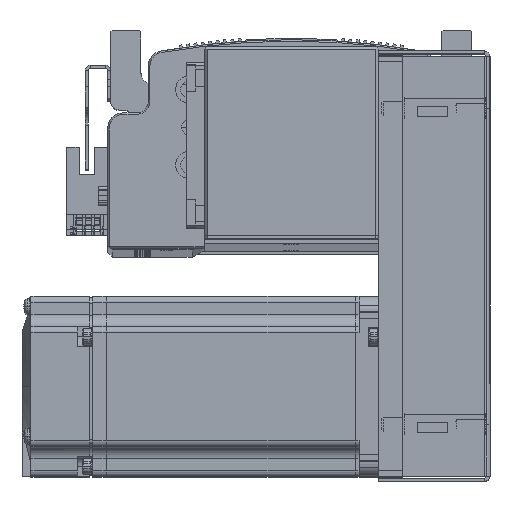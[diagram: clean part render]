
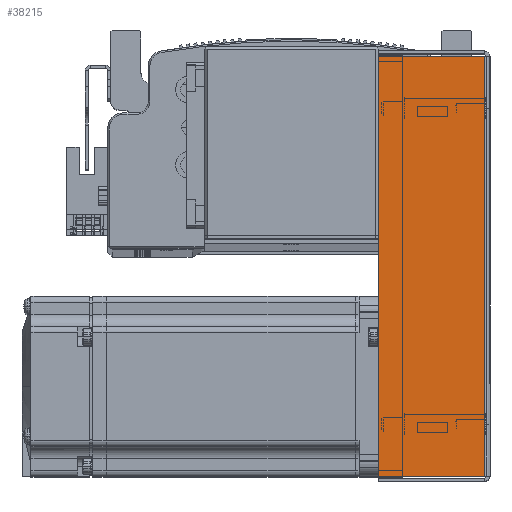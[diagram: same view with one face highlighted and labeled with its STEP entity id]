
A CAD part, top view. The second image highlights one B-rep face of the part: STEP entity #38215.
In plain terms, the highlighted planar face has unit normal (0, 0, 1).
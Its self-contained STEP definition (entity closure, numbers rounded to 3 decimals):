
#2844 = CARTESIAN_POINT ( 'NONE',  ( 69.793, 0.737, 33.5 ) ) ;
#2876 = CARTESIAN_POINT ( 'NONE',  ( -69.793, 0.737, 33.5 ) ) ;
#2894 = CARTESIAN_POINT ( 'NONE',  ( -69.793, 36., 33.5 ) ) ;
#2949 = CARTESIAN_POINT ( 'NONE',  ( 69.793, 36., 33.5 ) ) ;
#4380 = LINE ( 'NONE', #7592, #4427 ) ;
#4399 = LINE ( 'NONE', #7462, #4401 ) ;
#4401 = VECTOR ( 'NONE', #7464, 1000. ) ;
#4403 = VECTOR ( 'NONE', #7440, 1000. ) ;
#4412 = LINE ( 'NONE', #7517, #4403 ) ;
#4420 = VECTOR ( 'NONE', #7459, 1000. ) ;
#4427 = VECTOR ( 'NONE', #7571, 1000. ) ;
#4447 = LINE ( 'NONE', #7486, #4420 ) ;
#7440 = DIRECTION ( 'NONE',  ( 0., 1., 0. ) ) ;
#7459 = DIRECTION ( 'NONE',  ( -1., 0., 0. ) ) ;
#7462 = CARTESIAN_POINT ( 'NONE',  ( 69.793, 0., 33.5 ) ) ;
#7464 = DIRECTION ( 'NONE',  ( 0., 1., 0. ) ) ;
#7486 = CARTESIAN_POINT ( 'NONE',  ( 0., 36., 33.5 ) ) ;
#7517 = CARTESIAN_POINT ( 'NONE',  ( -69.793, 0., 33.5 ) ) ;
#7571 = DIRECTION ( 'NONE',  ( -1., 0., 0. ) ) ;
#7592 = CARTESIAN_POINT ( 'NONE',  ( -71.5, 0.737, 33.5 ) ) ;
#27378 = FACE_OUTER_BOUND ( 'NONE', #85267, .T. ) ;
#35259 = PLANE ( 'NONE',  #52330 ) ;
#35322 = DIRECTION ( 'NONE',  ( 0., 0., -1. ) ) ;
#35338 = DIRECTION ( 'NONE',  ( -1., 0., 0. ) ) ;
#35377 = CARTESIAN_POINT ( 'NONE',  ( 0., 0., 33.5 ) ) ;
#38215 = ADVANCED_FACE ( 'NONE', ( #27378 ), #35259, .F. ) ;
#52330 = AXIS2_PLACEMENT_3D ( 'NONE', #35377, #35322, #35338 ) ;
#77189 = ORIENTED_EDGE ( 'NONE', *, *, #88727, .F. ) ;
#77209 = ORIENTED_EDGE ( 'NONE', *, *, #88729, .T. ) ;
#77418 = ORIENTED_EDGE ( 'NONE', *, *, #88737, .T. ) ;
#77442 = ORIENTED_EDGE ( 'NONE', *, *, #88744, .F. ) ;
#81875 = VERTEX_POINT ( 'NONE', #2844 ) ;
#81891 = VERTEX_POINT ( 'NONE', #2876 ) ;
#81919 = VERTEX_POINT ( 'NONE', #2949 ) ;
#81950 = VERTEX_POINT ( 'NONE', #2894 ) ;
#85267 = EDGE_LOOP ( 'NONE', ( #77442, #77418, #77209, #77189 ) ) ;
#88727 = EDGE_CURVE ( 'NONE', #81891, #81950, #4412, .T. ) ;
#88729 = EDGE_CURVE ( 'NONE', #81919, #81950, #4447, .T. ) ;
#88737 = EDGE_CURVE ( 'NONE', #81875, #81919, #4399, .T. ) ;
#88744 = EDGE_CURVE ( 'NONE', #81875, #81891, #4380, .T. ) ;
